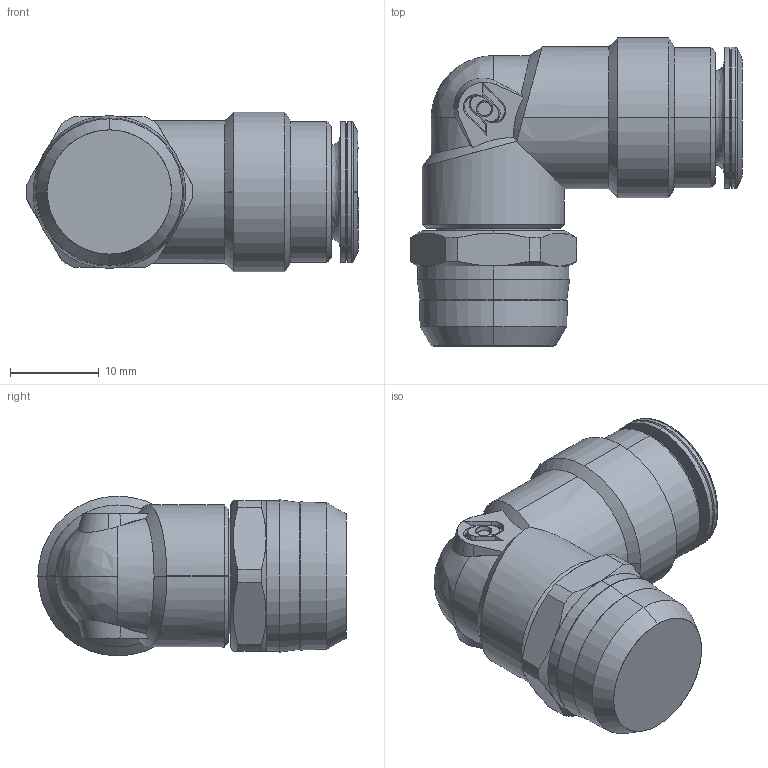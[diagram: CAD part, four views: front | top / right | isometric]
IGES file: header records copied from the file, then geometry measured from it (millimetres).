
Start section: SolidWorks IGES file using analytic representation for surfaces
Global section: file name: K:\Disegni\Disegni Esecutivi\ALPHA TECHNOLOGIES\84000\Assiemi-84000\84111\84111_igs\84111H0013.IGS; native system: SolidWorks 2016; preprocessor: SolidWorks 2016; author: cad07; date: 191212.093959; units: millimetre
Bounding box: 37.4 x 34.7 x 18 mm (x, y, z)
Surface area: 3585.8 mm2 (no closed solid volume)
Topology: 0 solids, 0 shells, 135 faces, 1781 edges, 1777 vertices
Faces by surface type: revolution 82, bspline 53
